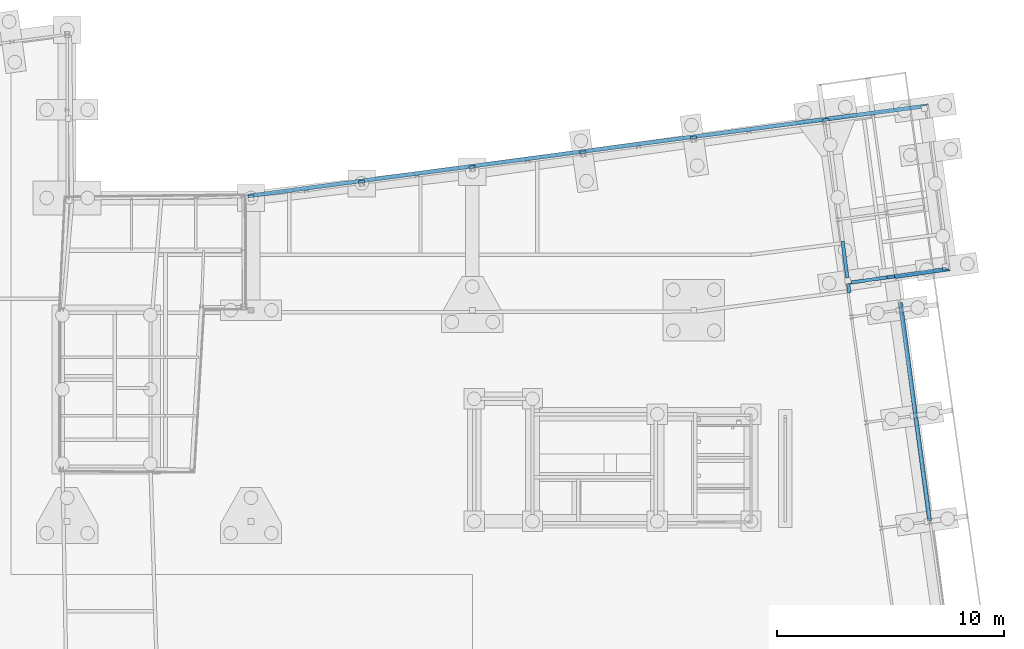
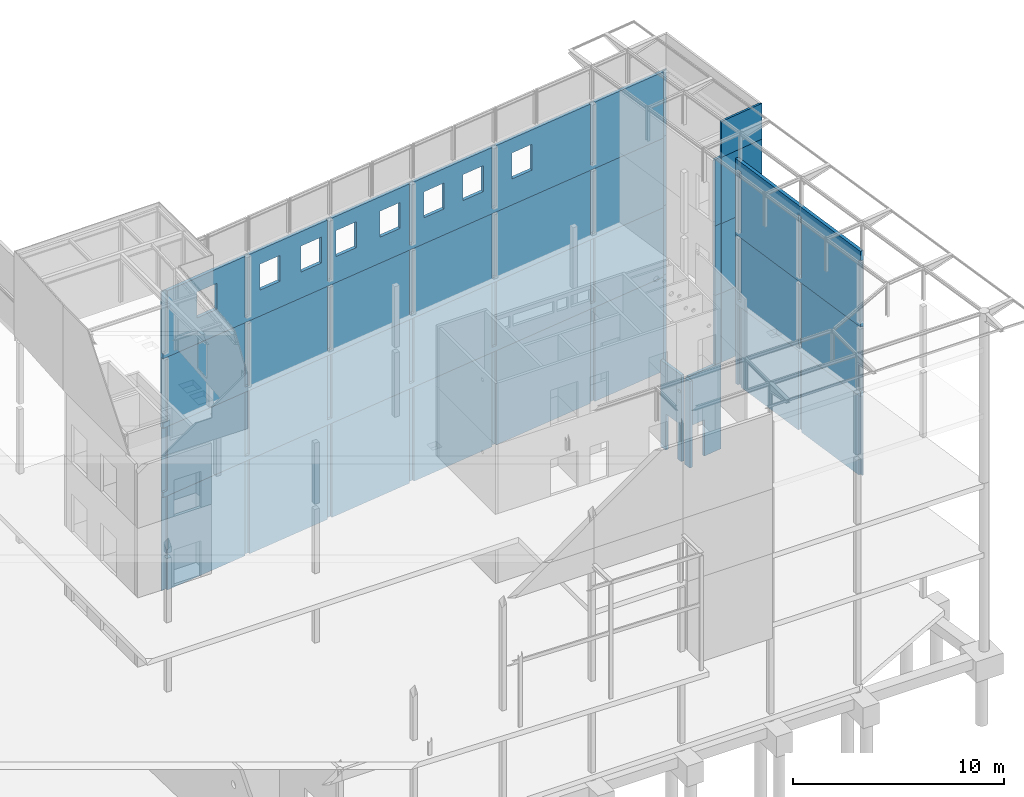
# One storey, part 78 of 82: 17 walls.
"""IFC2X3 building model written with IfcOpenShell, lengths in millimetres."""

from ifc_helpers import new_model, si_unit, frame, frame_2d, origin_with_axes, place, context, subcontext, project, spatial, polyline, rectangle, outline, extrude, boolean, clip, halfspace, material, layer, layer_set, layer_usage, type_object, element, save


model = new_model("IFC2X3")

# Units and contexts
model_context = context("Model", 3, precision=1e-05, world=origin_with_axes())
body_context = subcontext(model_context, "Body", "Model", "MODEL_VIEW")
ifc_project = project(units=[si_unit("LENGTHUNIT", "METRE", prefix="MILLI"), si_unit("AREAUNIT", "SQUARE_METRE"), si_unit("VOLUMEUNIT", "CUBIC_METRE"), si_unit("MASSUNIT", "GRAM", prefix="KILO"), si_unit("TIMEUNIT", "SECOND"), si_unit("PLANEANGLEUNIT", "RADIAN"), si_unit("SOLIDANGLEUNIT", "STERADIAN"), si_unit("THERMODYNAMICTEMPERATUREUNIT", "DEGREE_CELSIUS"), si_unit("LUMINOUSINTENSITYUNIT", "LUMEN")], contexts=[model_context])

# Site, building, storey
site_placement = place(None, origin_with_axes())
site = spatial("IfcSite", under=ifc_project, at=site_placement, Name="Undefined", CompositionType="ELEMENT")
building_placement = place(site_placement, origin_with_axes())
building = spatial("IfcBuilding", under=site, at=building_placement, Name="Undefined", CompositionType="ELEMENT")
storey_placement = place(building_placement, origin_with_axes())
storey = spatial("IfcBuildingStorey", under=building, at=storey_placement, Name="Undefined", CompositionType="ELEMENT", Elevation=0.0)

# Walls
ifc_material_1 = material(Name="CONCRETE/BRIQUE")
wall_type_1 = type_object("IfcWallType", Name="3830*150", PredefinedType="NOTDEFINED")
wall_1_placement = place(storey_placement, frame((65358.0858920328, 20045.5332370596, 13030.0), z_axis=(0.0, 0.0, 1.0), x_axis=(0.990097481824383, 0.140381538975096, 0.0)))
element("IfcWall", 1, at=wall_1_placement, inside=storey, type_object=wall_type_1, material=ifc_material_1, Name="MACONNERIE_15CM", ObjectType="3830*150", context=body_context, shape_type="Clipping", body=[
    clip(extrude(rectangle(XDim=437.890557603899, YDim=150.0, at=frame_2d((0.0, 128.547692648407), x_axis=(0.0, -1.0))), frame((0.0, 0.0, 0.0), z_axis=(0.0, 0.0, 1.0), x_axis=(-2.77555756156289e-17, -1.0, 0.0)), (0.0, 0.0, 1.0), 3830.0), halfspace(frame((0.0583938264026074, -1.81898940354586e-12, 915.000000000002), z_axis=(0.999967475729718, -0.00806520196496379, 0.0), x_axis=(-0.00806520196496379, -0.999967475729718, 0.0)), True)),
])
wall_type_2 = type_object("IfcWallType", Name="4025*150", PredefinedType="NOTDEFINED")
wall_2_placement = place(storey_placement, frame((65358.0858920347, 20045.5332369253, 9005.0), z_axis=(0.0, 0.0, 1.0), x_axis=(0.990097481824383, 0.140381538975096, 0.0)))
element("IfcWall", 2, at=wall_2_placement, inside=storey, type_object=wall_type_2, material=ifc_material_1, Name="MACONNERIE_15CM", ObjectType="4025*150", context=body_context, shape_type="Clipping", body=[
    clip(extrude(rectangle(XDim=437.890557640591, YDim=150.0, at=frame_2d((0.0, 128.547692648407), x_axis=(0.0, -1.0))), frame((0.0, 0.0, 0.0), z_axis=(0.0, 0.0, 1.0), x_axis=(-2.77555756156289e-17, -1.0, 0.0)), (0.0, 0.0, 1.0), 4025.0), halfspace(frame((0.0583937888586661, -6.97637005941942e-08, 1012.5), z_axis=(0.999967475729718, -0.00806520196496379, 0.0), x_axis=(-0.00806520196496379, -0.999967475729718, 0.0)), True)),
])
wall_type_3 = type_object("IfcWallType", Name="4005*150", PredefinedType="NOTDEFINED")
wall_3_placement = place(storey_placement, frame((65358.0858920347, 20045.5332369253, 5000.0), z_axis=(0.0, 0.0, 1.0), x_axis=(0.990097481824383, 0.140381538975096, 0.0)))
element("IfcWall", 3, at=wall_3_placement, inside=storey, type_object=wall_type_3, material=ifc_material_1, Name="MACONNERIE_15CM", ObjectType="4005*150", context=body_context, shape_type="Clipping", body=[
    clip(extrude(rectangle(XDim=439.282806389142, YDim=150.0, at=frame_2d((0.0, 128.085542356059), x_axis=(0.0, -1.0))), frame((0.0, 0.0, 0.0), z_axis=(0.0, 0.0, 1.0), x_axis=(-2.77555756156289e-17, -1.0, 0.0)), (0.0, 0.0, 1.0), 4005.0), halfspace(frame((-0.604909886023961, -6.97637005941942e-08, 1002.5), z_axis=(0.999967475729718, -0.00806520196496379, 0.0), x_axis=(-0.00806520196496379, -0.999967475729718, 0.0)), True)),
])
ifc_material_2 = material(Name="CONCRETE/C25/30")
wall_type_4 = type_object("IfcWallType", Name="2071*115", PredefinedType="NOTDEFINED")
wall_4_placement = place(storey_placement, frame((68146.3196535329, 20400.6575412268, 16860.0000000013), z_axis=(0.0, 0.0, 1.0), x_axis=(-0.989654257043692, -0.143472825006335, 0.0)))
element("IfcWall", 4, at=wall_4_placement, inside=storey, type_object=wall_type_4, material=ifc_material_2, Name="PANNEAU_FACADE", ObjectType="2071*115", context=body_context, shape_type="Clipping", body=[
    clip(extrude(rectangle(XDim=2597.47089483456, YDim=115.0, at=frame_2d((0.0, 1163.87740145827), x_axis=(0.0, -1.0))), frame((0.0, 0.0, 0.0), z_axis=(0.0, 0.0, 1.0), x_axis=(-2.77555756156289e-17, -1.0, 0.0)), (0.0, 0.0, 1.0), 2071.0), halfspace(frame((3.31783667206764e-09, 57.5000000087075, 1035.5), z_axis=(-0.711444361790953, -0.702742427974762, 0.0), x_axis=(0.0, 0.0, 1.0)), False)),
])
ifc_layer = layer(ifc_material_2, 180.0)
ifc_layer_set = layer_set([ifc_layer], Name="Wall: Insitu CONCRETE/C25/30")
ifc_layer_usage_1 = layer_usage(ifc_layer_set, "AXIS2", "POSITIVE", -90.0)
wall_type_5 = type_object("IfcWallType", Name="4370*180", PredefinedType="NOTDEFINED")
wall_5_placement = place(storey_placement, frame((67242.7243949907, 9313.47016263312, 13029.9997253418), z_axis=(0.0, 0.0, 1.0), x_axis=(-0.132256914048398, 0.991215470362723, 0.0)))
element("IfcWallStandardCase", 5, at=wall_5_placement, inside=storey, type_object=wall_type_5, material=ifc_layer_usage_1, Name="PANNEAU_FACADE", ObjectType="4370*180", context=body_context, shape_type="CSG", body=[
    boolean("DIFFERENCE", boolean("DIFFERENCE", boolean("DIFFERENCE", extrude(rectangle(XDim=9713.11700006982, YDim=180.0, at=frame_2d((0.0, 4856.55850003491), x_axis=(0.0, -1.0))), frame((0.0, 0.0, 0.0), z_axis=(0.0, 0.0, 1.0), x_axis=(-2.77555756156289e-17, -1.0, 0.0)), (0.0, 0.0, 1.0), 4370.0), extrude(rectangle(XDim=265.0, YDim=265.0, at=frame_2d((5.17284206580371e-08, 4.49290382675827e-10), x_axis=(1.0, 0.0))), frame((-10.1431621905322, 104.997028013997, 3830.0002746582), z_axis=(0.0, -6.50000002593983e-08, -0.999999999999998), x_axis=(-1.0, 0.0, 0.0)), (0.0, 0.0, 1.0), 3530.0)), extrude(rectangle(XDim=265.0, YDim=265.0, at=frame_2d((5.17284206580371e-08, 4.49290382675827e-10), x_axis=(1.0, 0.0))), frame((4689.65753688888, 105.000000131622, 3830.0002746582), z_axis=(0.0, -6.50000002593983e-08, -0.999999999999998), x_axis=(-1.0, 0.0, 0.0)), (0.0, 0.0, 1.0), 3530.0)), extrude(rectangle(XDim=265.0, YDim=265.0, at=frame_2d((5.17284206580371e-08, 4.49290382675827e-10), x_axis=(1.0, 0.0))), frame((9389.55319189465, 105.000000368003, 3830.0002746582), z_axis=(0.0, -6.50000002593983e-08, -0.999999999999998), x_axis=(-1.0, 0.0, 0.0)), (0.0, 0.0, 1.0), 3530.0)),
])
wall_type_6 = type_object("IfcWallType", Name="3830*180", PredefinedType="NOTDEFINED")
wall_6_placement = place(storey_placement, frame((68141.6569363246, 20432.8213262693, 13030.0000000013), z_axis=(0.0, 0.0, 1.0), x_axis=(-0.989654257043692, -0.143472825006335, 0.0)))
element("IfcWall", 6, at=wall_6_placement, inside=storey, type_object=wall_type_6, material=ifc_material_2, Name="PANNEAU_FACADE", ObjectType="3830*180", context=body_context, shape_type="CSG", body=[
    boolean("DIFFERENCE", boolean("DIFFERENCE", extrude(rectangle(XDim=2673.69500781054, YDim=180.0, at=frame_2d((0.0, 1125.76549613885), x_axis=(0.0, -1.0))), frame((0.0, 0.0, 0.0), z_axis=(0.0, 0.0, 1.0), x_axis=(-2.77555756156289e-17, -1.0, 0.0)), (0.0, 0.0, 1.0), 3830.0), extrude(rectangle(XDim=260.0, YDim=260.0, at=frame_2d((5.17284206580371e-08, 4.49290382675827e-10), x_axis=(1.0, 0.0))), frame((192.595434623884, -106.590183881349, 3829.99999999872), z_axis=(0.0, -6.50000002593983e-08, -0.999999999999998), x_axis=(-0.0123061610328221, -0.999924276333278, -6.44374198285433e-08)), (0.0, 0.0, 1.0), 3530.0)), halfspace(frame((0.000151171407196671, 90.0000000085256, 1915.0), z_axis=(-0.711444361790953, -0.702742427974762, 0.0), x_axis=(0.0, 0.0, 1.0)), False)),
])
wall_7_placement = place(storey_placement, frame((37206.8167665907, 23630.9962169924, 13030.000000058), z_axis=(0.0, 0.0, 1.0), x_axis=(0.99128603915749, 0.131726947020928, 0.0)))
solid_1 = boolean("DIFFERENCE", boolean("DIFFERENCE", boolean("DIFFERENCE", boolean("DIFFERENCE", boolean("DIFFERENCE", boolean("DIFFERENCE", boolean("DIFFERENCE", boolean("DIFFERENCE", extrude(rectangle(XDim=30408.1385906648, YDim=180.0, at=frame_2d((0.0, 15204.0692953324), x_axis=(0.0, -1.0))), frame((0.0, 0.0, 0.0), z_axis=(0.0, 0.0, 1.0), x_axis=(-2.77555756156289e-17, -1.0, 0.0)), (0.0, 0.0, 1.0), 3830.0), extrude(rectangle(XDim=265.0, YDim=265.0, at=frame_2d((5.17284206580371e-08, 4.49290382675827e-10), x_axis=(1.0, 0.0))), frame((30053.3518308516, -104.999772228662, 3829.99999994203), z_axis=(0.0, -6.50000002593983e-08, -0.999999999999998), x_axis=(0.0, 1.0, 0.0)), (0.0, 0.0, 1.0), 3830.0)), extrude(rectangle(XDim=265.0, YDim=265.0, at=frame_2d((5.17284206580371e-08, 4.49290382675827e-10), x_axis=(1.0, 0.0))), frame((25684.5627911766, -104.999772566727, 3829.99999994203), z_axis=(0.0, -6.50000002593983e-08, -0.999999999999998), x_axis=(0.0, 1.0, 0.0)), (0.0, 0.0, 1.0), 3530.0)), extrude(rectangle(XDim=265.0, YDim=265.0, at=frame_2d((5.17284206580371e-08, 4.49290382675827e-10), x_axis=(1.0, 0.0))), frame((19801.9021878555, -105.004669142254, 3829.99999994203), z_axis=(0.0, -6.50000002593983e-08, -0.999999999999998), x_axis=(0.0, 1.0, 0.0)), (0.0, 0.0, 1.0), 3530.0)), extrude(rectangle(XDim=265.0, YDim=265.0, at=frame_2d((5.17284206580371e-08, 4.49290382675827e-10), x_axis=(1.0, 0.0))), frame((14882.7547115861, -104.999772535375, 3829.99999994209), z_axis=(0.0, -6.50000002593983e-08, -0.999999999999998), x_axis=(0.0, 1.0, 0.0)), (0.0, 0.0, 1.0), 3530.0)), extrude(rectangle(XDim=265.0, YDim=265.0, at=frame_2d((5.17284206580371e-08, 4.49290382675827e-10), x_axis=(1.0, 0.0))), frame((9965.33470665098, -104.986491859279, 3829.99999994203), z_axis=(0.0, -6.50000002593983e-08, -0.999999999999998), x_axis=(0.0, 1.0, 0.0)), (0.0, 0.0, 1.0), 3530.0)), extrude(rectangle(XDim=265.0, YDim=265.0, at=frame_2d((5.17284206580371e-08, 4.49290382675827e-10), x_axis=(1.0, 0.0))), frame((5047.91279909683, -104.999214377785, 3829.99999994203), z_axis=(0.0, -6.50000002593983e-08, -0.999999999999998), x_axis=(0.0, 1.0, 0.0)), (0.0, 0.0, 1.0), 3530.0)), extrude(rectangle(XDim=265.0, YDim=265.0, at=frame_2d((5.17284206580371e-08, 4.49290382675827e-10), x_axis=(1.0, 0.0))), frame((129.994047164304, -104.999772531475, 3829.99999994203), z_axis=(0.0, -6.50000002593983e-08, -0.999999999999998), x_axis=(0.0, 1.0, 0.0)), (0.0, 0.0, 1.0), 3530.0)), extrude(outline(polyline([(5.17284206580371e-08, 4.49290382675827e-10), (1500.0, 3.78349795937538e-10), (1500.0, 1199.99999998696), (0.0, 1199.99999998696), (5.17284206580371e-08, 4.49290382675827e-10)])), frame((22074.5754213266, -100.000000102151, 3000.00079343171), z_axis=(0.0, 1.0, 0.0), x_axis=(0.0, -6.50000002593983e-08, -0.999999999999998)), (0.0, 0.0, 1.0), 200.0))
element("IfcWall", 7, at=wall_7_placement, inside=storey, type_object=wall_type_6, material=ifc_material_2, Name="PANNEAU_FACADE", ObjectType="3830*180", context=body_context, shape_type="CSG", body=[
    boolean("DIFFERENCE", boolean("DIFFERENCE", boolean("DIFFERENCE", boolean("DIFFERENCE", boolean("DIFFERENCE", boolean("DIFFERENCE", boolean("DIFFERENCE", boolean("DIFFERENCE", solid_1, extrude(outline(polyline([(5.17284206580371e-08, 4.49290382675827e-10), (1500.0, 3.78349795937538e-10), (1500.0, 1199.99999998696), (0.0, 1199.99999998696), (5.17284206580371e-08, 4.49290382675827e-10)])), frame((19151.1664770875, -100.00000007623, 3000.00079344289), z_axis=(0.0, 1.0, 0.0), x_axis=(0.0, -6.50000002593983e-08, -0.999999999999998)), (0.0, 0.0, 1.0), 200.0)), extrude(outline(polyline([(5.17284206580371e-08, 4.49290382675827e-10), (1500.0, 3.78349795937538e-10), (1500.0, 1199.99999998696), (0.0, 1199.99999998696), (5.17284206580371e-08, 4.49290382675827e-10)])), frame((16811.4228745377, -100.000000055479, 3000.00079345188), z_axis=(0.0, 1.0, 0.0), x_axis=(0.0, -6.50000002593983e-08, -0.999999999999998)), (0.0, 0.0, 1.0), 200.0)), extrude(outline(polyline([(5.17284206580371e-08, 4.49290382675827e-10), (1500.0, 3.78349795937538e-10), (1500.0, 1199.99999998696), (0.0, 1199.99999998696), (5.17284206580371e-08, 4.49290382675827e-10)])), frame((14185.5476949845, -100.000000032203, 3000.00079346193), z_axis=(0.0, 1.0, 0.0), x_axis=(0.0, -6.50000002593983e-08, -0.999999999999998)), (0.0, 0.0, 1.0), 200.0)), extrude(outline(polyline([(5.17284206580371e-08, 4.49290382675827e-10), (1500.0, 3.78349795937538e-10), (1500.0, 1199.99999998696), (0.0, 1199.99999998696), (5.17284206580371e-08, 4.49290382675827e-10)])), frame((11559.6687339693, -100.000000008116, 3000.000793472), z_axis=(0.0, 1.0, 0.0), x_axis=(0.0, -6.50000002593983e-08, -0.999999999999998)), (0.0, 0.0, 1.0), 200.0)), extrude(outline(polyline([(5.17284206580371e-08, 4.49290382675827e-10), (1500.0, 3.78349795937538e-10), (1500.0, 1199.99999998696), (0.0, 1199.99999998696), (5.17284206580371e-08, 4.49290382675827e-10)])), frame((9468.78633895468, -99.9999999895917, 3000.00079348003), z_axis=(0.0, 1.0, 0.0), x_axis=(0.0, -6.50000002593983e-08, -0.999999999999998)), (0.0, 0.0, 1.0), 200.0)), extrude(outline(polyline([(5.17284206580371e-08, 4.49290382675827e-10), (1500.0, 3.78349795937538e-10), (1500.0, 1199.99999998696), (0.0, 1199.99999998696), (5.17284206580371e-08, 4.49290382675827e-10)])), frame((7002.3549881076, -99.9999999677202, 3000.00079348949), z_axis=(0.0, 1.0, 0.0), x_axis=(0.0, -6.50000002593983e-08, -0.999999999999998)), (0.0, 0.0, 1.0), 200.0)), extrude(outline(polyline([(5.17284206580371e-08, 4.49290382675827e-10), (1500.0, 3.78349795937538e-10), (1500.0, 1199.99999998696), (0.0, 1199.99999998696), (5.17284206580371e-08, 4.49290382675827e-10)])), frame((3224.99678195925, -99.9999999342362, 3000.00079350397), z_axis=(0.0, 1.0, 0.0), x_axis=(0.0, -6.50000002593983e-08, -0.999999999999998)), (0.0, 0.0, 1.0), 200.0)), halfspace(frame((30068.3003013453, -90.0000001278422, 1915.0), z_axis=(0.706948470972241, -0.707265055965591, 0.0), x_axis=(0.0, 0.0, 1.0)), False)),
])
ifc_layer_usage_2 = layer_usage(ifc_layer_set, "AXIS2", "POSITIVE", -90.0)
wall_type_7 = type_object("IfcWallType", Name="4025*180", PredefinedType="NOTDEFINED")
wall_8_placement = place(storey_placement, frame((67242.7243949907, 9313.47016263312, 9004.9997253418), z_axis=(0.0, 0.0, 1.0), x_axis=(-0.132256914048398, 0.991215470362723, 0.0)))
element("IfcWallStandardCase", 8, at=wall_8_placement, inside=storey, type_object=wall_type_7, material=ifc_layer_usage_2, Name="PANNEAU_FACADE", ObjectType="4025*180", context=body_context, shape_type="CSG", body=[
    boolean("DIFFERENCE", boolean("DIFFERENCE", boolean("DIFFERENCE", extrude(rectangle(XDim=9713.11700006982, YDim=180.0, at=frame_2d((0.0, 4856.55850003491), x_axis=(0.0, -1.0))), frame((0.0, 0.0, 0.0), z_axis=(0.0, 0.0, 1.0), x_axis=(-2.77555756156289e-17, -1.0, 0.0)), (0.0, 0.0, 1.0), 4025.0), extrude(rectangle(XDim=265.0, YDim=265.0, at=frame_2d((5.17284206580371e-08, 4.49290382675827e-10), x_axis=(1.0, 0.0))), frame((-10.1431621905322, 104.997028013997, 4025.0002746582), z_axis=(0.0, -6.50000002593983e-08, -0.999999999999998), x_axis=(-1.0, 0.0, 0.0)), (0.0, 0.0, 1.0), 3725.0)), extrude(rectangle(XDim=265.0, YDim=265.0, at=frame_2d((5.17284206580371e-08, 4.49290382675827e-10), x_axis=(1.0, 0.0))), frame((4689.65753688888, 105.000000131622, 4025.0002746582), z_axis=(0.0, -6.50000002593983e-08, -0.999999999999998), x_axis=(-1.0, 0.0, 0.0)), (0.0, 0.0, 1.0), 3725.0)), extrude(rectangle(XDim=265.0, YDim=265.0, at=frame_2d((5.17284206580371e-08, 4.49290382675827e-10), x_axis=(1.0, 0.0))), frame((9389.55319189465, 105.000000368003, 4025.0002746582), z_axis=(0.0, -6.50000002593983e-08, -0.999999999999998), x_axis=(-1.0, 0.0, 0.0)), (0.0, 0.0, 1.0), 3725.0)),
])
wall_9_placement = place(storey_placement, frame((68141.6569363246, 20432.8213262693, 9005.00000000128), z_axis=(0.0, 0.0, 1.0), x_axis=(-0.989654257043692, -0.143472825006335, 0.0)))
element("IfcWall", 9, at=wall_9_placement, inside=storey, type_object=wall_type_7, material=ifc_material_2, Name="PANNEAU_FACADE", ObjectType="4025*180", context=body_context, shape_type="CSG", body=[
    boolean("DIFFERENCE", boolean("DIFFERENCE", extrude(rectangle(XDim=2673.69500781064, YDim=180.0, at=frame_2d((0.0, 1125.76549613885), x_axis=(0.0, -1.0))), frame((0.0, 0.0, 0.0), z_axis=(0.0, 0.0, 1.0), x_axis=(-2.77555756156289e-17, -1.0, 0.0)), (0.0, 0.0, 1.0), 4025.0), extrude(rectangle(XDim=260.0, YDim=260.0, at=frame_2d((5.17284206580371e-08, 4.49290382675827e-10), x_axis=(1.0, 0.0))), frame((192.595434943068, -106.590181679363, 4024.99999999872), z_axis=(0.0, -6.50000002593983e-08, -0.999999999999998), x_axis=(-0.0123061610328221, -0.999924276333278, -6.44374198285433e-08)), (0.0, 0.0, 1.0), 3725.0)), halfspace(frame((0.00015117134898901, 90.0000000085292, 2012.5), z_axis=(-0.711444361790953, -0.702742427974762, 0.0), x_axis=(0.0, 0.0, 1.0)), False)),
])
wall_10_placement = place(storey_placement, frame((37206.8167665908, 23630.9962169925, 9005.00000005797), z_axis=(0.0, 0.0, 1.0), x_axis=(0.99128603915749, 0.131726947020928, 0.0)))
element("IfcWall", 10, at=wall_10_placement, inside=storey, type_object=wall_type_7, material=ifc_material_2, Name="PANNEAU_FACADE", ObjectType="4025*180", context=body_context, shape_type="CSG", body=[
    boolean("DIFFERENCE", boolean("DIFFERENCE", boolean("DIFFERENCE", boolean("DIFFERENCE", boolean("DIFFERENCE", boolean("DIFFERENCE", boolean("DIFFERENCE", boolean("DIFFERENCE", extrude(rectangle(XDim=30408.1385906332, YDim=180.0, at=frame_2d((0.0, 15204.0692953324), x_axis=(0.0, -1.0))), frame((0.0, 0.0, 0.0), z_axis=(0.0, 0.0, 1.0), x_axis=(-2.77555756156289e-17, -1.0, 0.0)), (0.0, 0.0, 1.0), 4025.0), extrude(rectangle(XDim=265.0, YDim=265.0, at=frame_2d((5.17284206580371e-08, 4.49290382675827e-10), x_axis=(1.0, 0.0))), frame((30053.351830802, -104.999772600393, 4024.99999994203), z_axis=(0.0, -6.50000002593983e-08, -0.999999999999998), x_axis=(0.0, 1.0, 0.0)), (0.0, 0.0, 1.0), 4025.0)), extrude(rectangle(XDim=265.0, YDim=265.0, at=frame_2d((5.17284206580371e-08, 4.49290382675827e-10), x_axis=(1.0, 0.0))), frame((25684.5627908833, -104.999774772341, 4024.99999994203), z_axis=(0.0, -6.50000002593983e-08, -0.999999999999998), x_axis=(0.0, 1.0, 0.0)), (0.0, 0.0, 1.0), 3725.0)), extrude(rectangle(XDim=265.0, YDim=265.0, at=frame_2d((5.17284206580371e-08, 4.49290382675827e-10), x_axis=(1.0, 0.0))), frame((19801.9021875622, -105.004671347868, 4024.99999994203), z_axis=(0.0, -6.50000002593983e-08, -0.999999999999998), x_axis=(0.0, 1.0, 0.0)), (0.0, 0.0, 1.0), 3725.0)), extrude(rectangle(XDim=265.0, YDim=265.0, at=frame_2d((5.17284206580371e-08, 4.49290382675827e-10), x_axis=(1.0, 0.0))), frame((14882.7547112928, -104.999774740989, 4024.99999994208), z_axis=(0.0, -6.50000002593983e-08, -0.999999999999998), x_axis=(0.0, 1.0, 0.0)), (0.0, 0.0, 1.0), 3725.0)), extrude(rectangle(XDim=265.0, YDim=265.0, at=frame_2d((5.17284206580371e-08, 4.49290382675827e-10), x_axis=(1.0, 0.0))), frame((9965.3347063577, -104.986494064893, 4024.99999994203), z_axis=(0.0, -6.50000002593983e-08, -0.999999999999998), x_axis=(0.0, 1.0, 0.0)), (0.0, 0.0, 1.0), 3725.0)), extrude(rectangle(XDim=265.0, YDim=265.0, at=frame_2d((5.17284206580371e-08, 4.49290382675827e-10), x_axis=(1.0, 0.0))), frame((5047.91279880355, -104.999216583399, 4024.99999994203), z_axis=(0.0, -6.50000002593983e-08, -0.999999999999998), x_axis=(0.0, 1.0, 0.0)), (0.0, 0.0, 1.0), 3725.0)), extrude(rectangle(XDim=265.0, YDim=265.0, at=frame_2d((5.17284206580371e-08, 4.49290382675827e-10), x_axis=(1.0, 0.0))), frame((129.994046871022, -104.999774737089, 4024.99999994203), z_axis=(0.0, -6.50000002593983e-08, -0.999999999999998), x_axis=(0.0, 1.0, 0.0)), (0.0, 0.0, 1.0), 3725.0)), halfspace(frame((30248.3809088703, 89.9999999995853, 5939.99999994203), z_axis=(-0.706948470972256, 0.707265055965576, 0.0), x_axis=(0.0, 0.0, 1.0)), True)),
])
ifc_layer_usage_3 = layer_usage(ifc_layer_set, "AXIS2", "POSITIVE", -90.0)
wall_type_8 = type_object("IfcWallType", Name="4605*180", PredefinedType="NOTDEFINED")
wall_11_placement = place(storey_placement, frame((67242.7243949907, 9313.47016263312, 4399.9997253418), z_axis=(0.0, 0.0, 1.0), x_axis=(-0.132256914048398, 0.991215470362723, 0.0)))
element("IfcWallStandardCase", 11, at=wall_11_placement, inside=storey, type_object=wall_type_8, material=ifc_layer_usage_3, Name="PANNEAU_FACADE", ObjectType="4605*180", context=body_context, shape_type="CSG", body=[
    boolean("DIFFERENCE", boolean("DIFFERENCE", boolean("DIFFERENCE", extrude(rectangle(XDim=9713.11700006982, YDim=180.0, at=frame_2d((0.0, 4856.55850003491), x_axis=(0.0, -1.0))), frame((0.0, 0.0, 0.0), z_axis=(0.0, 0.0, 1.0), x_axis=(-2.77555756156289e-17, -1.0, 0.0)), (0.0, 0.0, 1.0), 4605.0), extrude(rectangle(XDim=265.0, YDim=265.0, at=frame_2d((5.17284206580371e-08, 4.49290382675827e-10), x_axis=(1.0, 0.0))), frame((-10.1431622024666, 104.997027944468, 4605.0002746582), z_axis=(0.0, -6.50000002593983e-08, -0.999999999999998), x_axis=(-1.0, 0.0, 0.0)), (0.0, 0.0, 1.0), 4605.0)), extrude(rectangle(XDim=265.0, YDim=265.0, at=frame_2d((5.17284206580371e-08, 4.49290382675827e-10), x_axis=(1.0, 0.0))), frame((4689.65753689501, 105.000000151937, 4605.0002746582), z_axis=(0.0, -6.50000002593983e-08, -0.999999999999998), x_axis=(-1.0, 0.0, 0.0)), (0.0, 0.0, 1.0), 4605.0)), extrude(rectangle(XDim=265.0, YDim=265.0, at=frame_2d((5.17284206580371e-08, 4.49290382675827e-10), x_axis=(1.0, 0.0))), frame((9389.55319191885, 105.000000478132, 4605.0002746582), z_axis=(0.0, -6.50000002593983e-08, -0.999999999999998), x_axis=(-1.0, 0.0, 0.0)), (0.0, 0.0, 1.0), 4605.0)),
])
wall_type_9 = type_object("IfcWallType", Name="4005*180", PredefinedType="NOTDEFINED")
wall_12_placement = place(storey_placement, frame((68141.6569363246, 20432.8213262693, 5000.00000000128), z_axis=(0.0, 0.0, 1.0), x_axis=(-0.989654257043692, -0.143472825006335, 0.0)))
element("IfcWall", 12, at=wall_12_placement, inside=storey, type_object=wall_type_9, material=ifc_material_2, Name="PANNEAU_FACADE", ObjectType="4005*180", context=body_context, shape_type="CSG", body=[
    boolean("DIFFERENCE", boolean("DIFFERENCE", extrude(rectangle(XDim=2673.69500780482, YDim=180.0, at=frame_2d((0.0, 1125.76549613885), x_axis=(0.0, -1.0))), frame((0.0, 0.0, 0.0), z_axis=(0.0, 0.0, 1.0), x_axis=(-2.77555756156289e-17, -1.0, 0.0)), (0.0, 0.0, 1.0), 4005.0), extrude(rectangle(XDim=265.0, YDim=265.0, at=frame_2d((5.17284206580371e-08, 4.49290382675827e-10), x_axis=(1.0, 0.0))), frame((192.595434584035, -106.590184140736, 4004.99999999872), z_axis=(0.0, -6.50000002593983e-08, -0.999999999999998), x_axis=(-0.0123061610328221, -0.999924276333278, -6.44374198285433e-08)), (0.0, 0.0, 1.0), 3705.0)), halfspace(frame((0.00015117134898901, 90.0000000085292, 2002.5), z_axis=(-0.711444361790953, -0.702742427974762, 0.0), x_axis=(0.0, 0.0, 1.0)), False)),
])
wall_13_placement = place(storey_placement, frame((37206.8167665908, 23630.9962169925, 5000.00000005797), z_axis=(0.0, 0.0, 1.0), x_axis=(0.99128603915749, 0.131726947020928, 0.0)))
solid_2 = boolean("DIFFERENCE", boolean("DIFFERENCE", boolean("DIFFERENCE", boolean("DIFFERENCE", boolean("DIFFERENCE", boolean("DIFFERENCE", boolean("DIFFERENCE", boolean("DIFFERENCE", extrude(rectangle(XDim=30629.4109163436, YDim=180.0, at=frame_2d((0.0, 15081.8884556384), x_axis=(0.0, -1.0))), frame((0.0, 0.0, 0.0), z_axis=(0.0, 0.0, 1.0), x_axis=(-2.77555756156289e-17, -1.0, 0.0)), (0.0, 0.0, 1.0), 4005.0), extrude(rectangle(XDim=265.0, YDim=265.0, at=frame_2d((5.17284206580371e-08, 4.49290382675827e-10), x_axis=(1.0, 0.0))), frame((30053.3518306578, -104.999773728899, 4004.99999994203), z_axis=(0.0, -6.50000002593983e-08, -0.999999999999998), x_axis=(0.0, 1.0, 0.0)), (0.0, 0.0, 1.0), 4005.0)), extrude(rectangle(XDim=265.0, YDim=265.0, at=frame_2d((5.17284206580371e-08, 4.49290382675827e-10), x_axis=(1.0, 0.0))), frame((25684.5627912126, -104.999772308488, 4004.99999994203), z_axis=(0.0, -6.50000002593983e-08, -0.999999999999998), x_axis=(0.0, 1.0, 0.0)), (0.0, 0.0, 1.0), 3705.0)), extrude(rectangle(XDim=265.0, YDim=265.0, at=frame_2d((5.17284206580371e-08, 4.49290382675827e-10), x_axis=(1.0, 0.0))), frame((19801.9021878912, -105.004668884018, 4004.99999994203), z_axis=(0.0, -6.50000002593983e-08, -0.999999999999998), x_axis=(0.0, 1.0, 0.0)), (0.0, 0.0, 1.0), 3705.0)), extrude(rectangle(XDim=265.0, YDim=265.0, at=frame_2d((5.17284206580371e-08, 4.49290382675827e-10), x_axis=(1.0, 0.0))), frame((14882.7547116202, -104.999772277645, 4004.99999994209), z_axis=(0.0, -6.50000002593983e-08, -0.999999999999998), x_axis=(0.0, 1.0, 0.0)), (0.0, 0.0, 1.0), 3705.0)), extrude(rectangle(XDim=265.0, YDim=265.0, at=frame_2d((5.17284206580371e-08, 4.49290382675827e-10), x_axis=(1.0, 0.0))), frame((9965.33470668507, -104.986491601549, 4004.99999994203), z_axis=(0.0, -6.50000002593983e-08, -0.999999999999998), x_axis=(0.0, 1.0, 0.0)), (0.0, 0.0, 1.0), 3705.0)), extrude(rectangle(XDim=265.0, YDim=265.0, at=frame_2d((5.17284206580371e-08, 4.49290382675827e-10), x_axis=(1.0, 0.0))), frame((5047.91279913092, -104.999214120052, 4004.99999994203), z_axis=(0.0, -6.50000002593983e-08, -0.999999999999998), x_axis=(0.0, 1.0, 0.0)), (0.0, 0.0, 1.0), 3705.0)), extrude(rectangle(XDim=265.0, YDim=265.0, at=frame_2d((5.17284206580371e-08, 4.49290382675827e-10), x_axis=(1.0, 0.0))), frame((129.994047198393, -104.999772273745, 4004.99999994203), z_axis=(0.0, -6.50000002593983e-08, -0.999999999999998), x_axis=(0.0, 1.0, 0.0)), (0.0, 0.0, 1.0), 3705.0)), halfspace(frame((30248.3809088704, 89.999999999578, 2002.49999994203), z_axis=(-0.706948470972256, 0.707265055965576, 0.0), x_axis=(0.0, 0.0, 1.0)), True))
element("IfcWall", 13, at=wall_13_placement, inside=storey, type_object=wall_type_9, material=ifc_material_2, Name="PANNEAU_FACADE", ObjectType="4005*180", context=body_context, shape_type="CSG", body=[
    boolean("DIFFERENCE", solid_2, halfspace(frame((10.8725456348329, 90.0000001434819, 2002.5), z_axis=(-0.998180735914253, 0.0602927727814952, 0.0), x_axis=(0.0, 0.0, 1.0)), False)),
])
wall_type_10 = type_object("IfcWallType", Name="5000*150", PredefinedType="NOTDEFINED")
wall_14_placement = place(storey_placement, frame((63707.3200056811, 19367.6900367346, 0.0), z_axis=(0.0, 0.0, 1.0), x_axis=(-0.131303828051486, 0.991342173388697, 0.0)))
element("IfcWall", 14, at=wall_14_placement, inside=storey, type_object=wall_type_10, material=ifc_material_1, Name="MACONNERIE_15CM", ObjectType="5000*150", context=body_context, shape_type="Clipping", body=[
    clip(extrude(rectangle(XDim=496.107650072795, YDim=150.0, at=frame_2d((0.0, 248.053825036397), x_axis=(0.0, -1.0))), frame((0.0, 0.0, 0.0), z_axis=(0.0, 0.0, 1.0), x_axis=(-2.77555756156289e-17, -1.0, 0.0)), (0.0, 0.0, 1.0), 5000.0), halfspace(frame((408.931054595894, 3.81114659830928e-08, 1500.0), z_axis=(-0.999968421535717, -0.0079470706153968, 4.12968521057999e-08), x_axis=(-0.00794707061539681, 0.999968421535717, 0.0)), True)),
])
wall_15_placement = place(storey_placement, frame((63619.4856222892, 20030.8384701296, 0.0), z_axis=(0.0, 0.0, 1.0), x_axis=(-0.131303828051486, 0.991342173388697, 0.0)))
element("IfcWall", 15, at=wall_15_placement, inside=storey, type_object=wall_type_10, material=ifc_material_1, Name="MACONNERIE_15CM", ObjectType="5000*150", context=body_context, shape_type="CSG", body=[
    boolean("DIFFERENCE", boolean("DIFFERENCE", boolean("DIFFERENCE", extrude(rectangle(XDim=1701.52624812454, YDim=150.0, at=frame_2d((0.0, 763.585875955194), x_axis=(0.0, -1.0))), frame((0.0, 0.0, 0.0), z_axis=(0.0, 0.0, 1.0), x_axis=(-2.77555756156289e-17, -1.0, 0.0)), (0.0, 0.0, 1.0), 5000.0), extrude(outline(polyline([(5.17284206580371e-08, 4.49290382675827e-10), (2100.0, 5.82076609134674e-11), (2100.0, 900.000000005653), (0.0, 900.000000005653), (5.17284206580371e-08, 4.49290382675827e-10)])), frame((1205.07597838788, -84.9999999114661, 2100.0), z_axis=(0.0, 1.0, 0.0), x_axis=(0.0, -6.50000002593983e-08, -0.999999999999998)), (0.0, 0.0, 1.0), 170.0)), extrude(rectangle(XDim=200.0, YDim=150.0, at=frame_2d((5.17284206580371e-08, 4.49290382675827e-10), x_axis=(1.0, 0.0))), frame((176.956749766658, -85.0000000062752, 4005.1396484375), z_axis=(0.0, 1.0, 0.0), x_axis=(-1.0, 0.0, 0.0)), (0.0, 0.0, 1.0), 170.0)), halfspace(frame((-0.000734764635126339, 3.8475263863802e-08, 1500.0), z_axis=(0.999968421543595, 0.00794706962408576, -4.12968530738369e-08), x_axis=(0.00794706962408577, -0.999968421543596, 0.0)), True)),
])
wall_16_placement = place(storey_placement, frame((63721.2579862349, 19813.4546540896, 0.0), z_axis=(0.0, 0.0, 1.0), x_axis=(0.990097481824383, 0.140381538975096, 0.0)))
element("IfcWall", 16, at=wall_16_placement, inside=storey, type_object=wall_type_10, material=ifc_material_1, Name="MACONNERIE_15CM", ObjectType="5000*150", context=body_context, shape_type="CSG", body=[
    boolean("DIFFERENCE", boolean("DIFFERENCE", boolean("DIFFERENCE", extrude(rectangle(XDim=2058.12615455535, YDim=150.0, at=frame_2d((0.0, 971.628630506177), x_axis=(0.0, -1.0))), frame((0.0, 0.0, 0.0), z_axis=(0.0, 0.0, 1.0), x_axis=(-2.77555756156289e-17, -1.0, 0.0)), (0.0, 0.0, 1.0), 5000.0), extrude(rectangle(XDim=260.0, YDim=260.0, at=frame_2d((5.17284206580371e-08, 4.49290382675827e-10), x_axis=(1.0, 0.0))), frame((-70.4092596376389, 99.5176409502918, 5000.0), z_axis=(0.0, -6.50000002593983e-08, -0.999999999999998), x_axis=(0.00121552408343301, 0.999999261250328, -4.15912306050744e-08)), (0.0, 0.0, 1.0), 5450.0)), extrude(outline(polyline([(5.17284206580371e-08, 4.49290382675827e-10), (2100.0, 5.82076609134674e-11), (2100.0, 900.000000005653), (0.0, 900.000000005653), (5.17284206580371e-08, 4.49290382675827e-10)])), frame((100.514011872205, 84.9999998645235, 2100.0), z_axis=(-2.77555756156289e-17, -1.0, 0.0), x_axis=(0.0, -6.50000002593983e-08, -0.999999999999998)), (0.0, 0.0, 1.0), 170.0)), halfspace(frame((-1.38023080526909, -440.080981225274, 0.0), z_axis=(0.999958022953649, -0.00916255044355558, 0.0), x_axis=(0.0, 0.0, 1.0)), True)),
])
wall_type_11 = type_object("IfcWallType", Name="5450*180", PredefinedType="NOTDEFINED")
wall_17_placement = place(storey_placement, frame((37206.8167665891, 23630.9962169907, -449.999999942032), z_axis=(0.0, 0.0, 1.0), x_axis=(0.99128603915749, 0.131726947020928, 0.0)))
solid_3 = boolean("DIFFERENCE", boolean("DIFFERENCE", boolean("DIFFERENCE", boolean("DIFFERENCE", boolean("DIFFERENCE", boolean("DIFFERENCE", boolean("DIFFERENCE", boolean("DIFFERENCE", extrude(rectangle(XDim=30609.3698314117, YDim=180.0, at=frame_2d((0.0, 15081.8884556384), x_axis=(0.0, -1.0))), frame((0.0, 0.0, 0.0), z_axis=(0.0, 0.0, 1.0), x_axis=(-2.77555756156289e-17, -1.0, 0.0)), (0.0, 0.0, 1.0), 5450.0), extrude(rectangle(XDim=265.0, YDim=265.0, at=frame_2d((5.17284206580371e-08, 4.49290382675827e-10), x_axis=(1.0, 0.0))), frame((30053.3518307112, -104.999773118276, 5449.99999994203), z_axis=(0.0, -6.50000002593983e-08, -0.999999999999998), x_axis=(0.0, 1.0, 0.0)), (0.0, 0.0, 1.0), 5450.0)), extrude(rectangle(XDim=260.0, YDim=260.0, at=frame_2d((5.17284206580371e-08, 4.49290382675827e-10), x_axis=(1.0, 0.0))), frame((25684.5627911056, -104.999773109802, 5449.99999994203), z_axis=(0.0, -6.50000002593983e-08, -0.999999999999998), x_axis=(0.0, 1.0, 0.0)), (0.0, 0.0, 1.0), 5450.0)), extrude(rectangle(XDim=265.0, YDim=265.0, at=frame_2d((5.17284206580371e-08, 4.49290382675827e-10), x_axis=(1.0, 0.0))), frame((19801.9022497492, -105.004203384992, 16649.999999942), z_axis=(0.0, -6.50000002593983e-08, -0.999999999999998), x_axis=(0.0, 1.0, 0.0)), (0.0, 0.0, 1.0), 16650.0)), extrude(rectangle(XDim=265.0, YDim=265.0, at=frame_2d((5.17284206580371e-08, 4.49290382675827e-10), x_axis=(1.0, 0.0))), frame((14882.7547734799, -104.99930677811, 16649.999999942), z_axis=(0.0, -6.50000002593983e-08, -0.999999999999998), x_axis=(0.0, 1.0, 0.0)), (0.0, 0.0, 1.0), 16650.0)), extrude(rectangle(XDim=265.0, YDim=265.0, at=frame_2d((5.17284206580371e-08, 4.49290382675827e-10), x_axis=(1.0, 0.0))), frame((9965.33476854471, -104.986026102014, 16649.999999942), z_axis=(0.0, -6.50000002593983e-08, -0.999999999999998), x_axis=(0.0, 1.0, 0.0)), (0.0, 0.0, 1.0), 16650.0)), extrude(rectangle(XDim=265.0, YDim=265.0, at=frame_2d((5.17284206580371e-08, 4.49290382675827e-10), x_axis=(1.0, 0.0))), frame((5047.91286099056, -104.99874862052, 16649.999999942), z_axis=(0.0, -6.50000002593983e-08, -0.999999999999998), x_axis=(0.0, 1.0, 0.0)), (0.0, 0.0, 1.0), 16650.0)), extrude(rectangle(XDim=265.0, YDim=265.0, at=frame_2d((5.17284206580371e-08, 4.49290382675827e-10), x_axis=(1.0, 0.0))), frame((129.994109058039, -104.99930677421, 16649.999999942), z_axis=(0.0, -6.50000002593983e-08, -0.999999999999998), x_axis=(0.0, 1.0, 0.0)), (0.0, 0.0, 1.0), 16650.0)), halfspace(frame((30248.3809088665, 89.9999999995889, 2724.99999994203), z_axis=(-0.706948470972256, 0.707265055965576, 0.0), x_axis=(0.0, 0.0, 1.0)), True))
element("IfcWall", 17, at=wall_17_placement, inside=storey, type_object=wall_type_11, material=ifc_material_2, Name="PANNEAU_FACADE", ObjectType="5450*180", context=body_context, shape_type="CSG", body=[
    boolean("DIFFERENCE", solid_3, halfspace(frame((10.8725456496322, 90.0000001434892, 2725.0), z_axis=(-0.998180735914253, 0.0602927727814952, 0.0), x_axis=(0.0, 0.0, 1.0)), False)),
])

save(model, "model.ifc")
